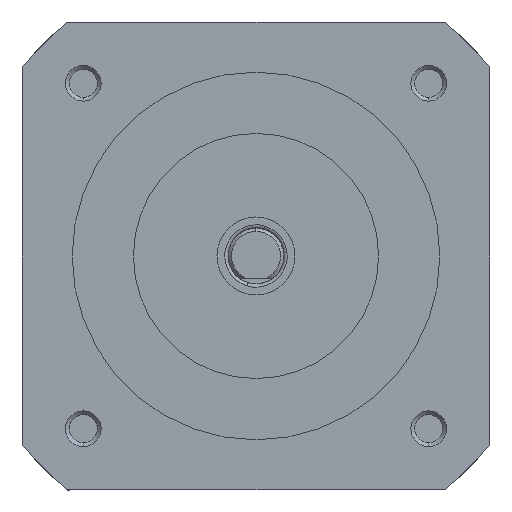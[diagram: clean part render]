
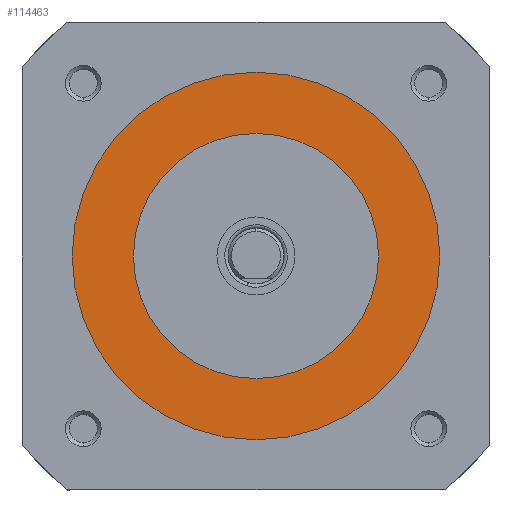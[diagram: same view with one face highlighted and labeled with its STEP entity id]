
A CAD part, left-side view. The second image highlights one B-rep face of the part: STEP entity #114463.
In plain terms, the highlighted planar face has unit normal (-1, 0, 0).
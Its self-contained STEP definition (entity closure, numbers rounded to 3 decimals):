
#3175 = CARTESIAN_POINT ( 'NONE',  ( -25.026, 68.032, 67.284 ) ) ;
#4253 = DIRECTION ( 'NONE',  ( -1., 0., 0. ) ) ;
#6855 = DIRECTION ( 'NONE',  ( -1., 0., 0. ) ) ;
#13163 = EDGE_CURVE ( 'NONE', #154479, #380478, #300220, .T. ) ;
#22149 = AXIS2_PLACEMENT_3D ( 'NONE', #261717, #56173, #142195 ) ;
#25853 = CARTESIAN_POINT ( 'NONE',  ( -25.026, 68.032, 83.784 ) ) ;
#33651 = CARTESIAN_POINT ( 'NONE',  ( -25.026, 68.032, 83.784 ) ) ;
#34352 = CARTESIAN_POINT ( 'NONE',  ( -25.026, 68.032, 72.784 ) ) ;
#36210 = CARTESIAN_POINT ( 'NONE',  ( -25.026, 68.032, 83.784 ) ) ;
#37225 = AXIS2_PLACEMENT_3D ( 'NONE', #25853, #201891, #60980 ) ;
#46035 = ORIENTED_EDGE ( 'NONE', *, *, #296427, .T. ) ;
#56173 = DIRECTION ( 'NONE',  ( -1., 0., 0. ) ) ;
#60980 = DIRECTION ( 'NONE',  ( 0., 0., 1. ) ) ;
#62271 = VERTEX_POINT ( 'NONE', #3175 ) ;
#68763 = AXIS2_PLACEMENT_3D ( 'NONE', #36210, #6855, #278761 ) ;
#92138 = CARTESIAN_POINT ( 'NONE',  ( -25.026, 68.032, 100.284 ) ) ;
#114463 = ADVANCED_FACE ( 'NONE', ( #304258, #155355 ), #159249, .T. ) ;
#115299 = CARTESIAN_POINT ( 'NONE',  ( -25.026, 68.032, 83.784 ) ) ;
#142195 = DIRECTION ( 'NONE',  ( 0., 0., 1. ) ) ;
#144577 = DIRECTION ( 'NONE',  ( -1., 0., 0. ) ) ;
#154479 = VERTEX_POINT ( 'NONE', #360943 ) ;
#155355 = FACE_BOUND ( 'NONE', #369160, .T. ) ;
#155748 = CIRCLE ( 'NONE', #37225, 11. ) ;
#159249 = PLANE ( 'NONE',  #68763 ) ;
#159480 = ORIENTED_EDGE ( 'NONE', *, *, #13163, .F. ) ;
#195669 = EDGE_LOOP ( 'NONE', ( #368634, #46035 ) ) ;
#201891 = DIRECTION ( 'NONE',  ( -1., 0., 0. ) ) ;
#214200 = EDGE_CURVE ( 'NONE', #380478, #154479, #155748, .T. ) ;
#219311 = DIRECTION ( 'NONE',  ( 0., 0., 1. ) ) ;
#237988 = EDGE_CURVE ( 'NONE', #338388, #62271, #278277, .T. ) ;
#261717 = CARTESIAN_POINT ( 'NONE',  ( -25.026, 68.032, 83.784 ) ) ;
#264114 = DIRECTION ( 'NONE',  ( 0., 0., 1. ) ) ;
#278277 = CIRCLE ( 'NONE', #22149, 16.5 ) ;
#278761 = DIRECTION ( 'NONE',  ( 0., 0., 1. ) ) ;
#286185 = AXIS2_PLACEMENT_3D ( 'NONE', #115299, #144577, #264114 ) ;
#296427 = EDGE_CURVE ( 'NONE', #62271, #338388, #335300, .T. ) ;
#300220 = CIRCLE ( 'NONE', #350334, 11. ) ;
#304258 = FACE_OUTER_BOUND ( 'NONE', #195669, .T. ) ;
#335300 = CIRCLE ( 'NONE', #286185, 16.5 ) ;
#338388 = VERTEX_POINT ( 'NONE', #92138 ) ;
#350334 = AXIS2_PLACEMENT_3D ( 'NONE', #33651, #4253, #219311 ) ;
#360943 = CARTESIAN_POINT ( 'NONE',  ( -25.026, 68.032, 94.784 ) ) ;
#368634 = ORIENTED_EDGE ( 'NONE', *, *, #237988, .T. ) ;
#369160 = EDGE_LOOP ( 'NONE', ( #374481, #159480 ) ) ;
#374481 = ORIENTED_EDGE ( 'NONE', *, *, #214200, .F. ) ;
#380478 = VERTEX_POINT ( 'NONE', #34352 ) ;
